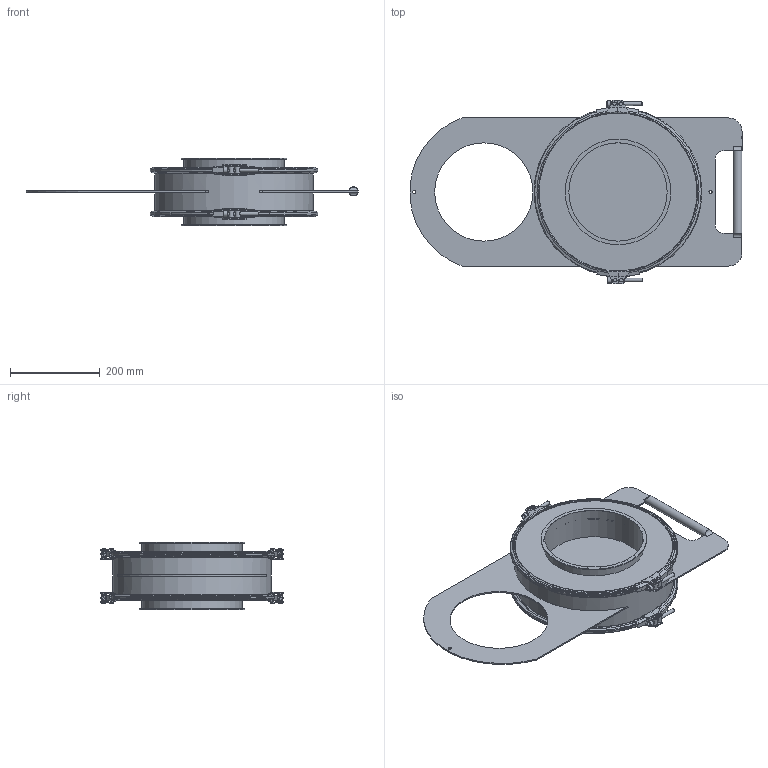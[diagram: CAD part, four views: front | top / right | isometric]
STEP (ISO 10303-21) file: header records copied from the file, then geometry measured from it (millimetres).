
FILE_DESCRIPTION((''),'2;1');
FILE_NAME('U:\Wolfgang\Marcel-3D\fertig\Kapitel 9\2221081.stp','2011-10-11T13:06:31',('iwienholt'),(''),'Autodesk Inventor 2010','Autodesk Inventor 2010','');
FILE_SCHEMA(('AUTOMOTIVE_DESIGN { 1 0 10303 214 1 1 1 1 }'));
Length unit declared in the file: millimetre
Products named in the file (10): 2221081; Rohr DN224; Schieber DN224; 3522055; 3522055-1; Verschluss b=374; Verschlussrolle; VerschlussrolleGewinde; ISO 4762 M8 x 70; 3522055-Dichtmasse
Assembly tree (17 placements, depth 3):
  2221081
    Rohr DN224
    Schieber DN224
    3522055  x2
      3522055-1
      Verschluss b=374
      Verschlussrolle
      VerschlussrolleGewinde
      ISO 4762 M8 x 70
      3522055-Dichtmasse
Bounding box: 739.41 x 408 x 150 mm (x, y, z)
Volume: 1772934.6 mm3; surface area: 1353736.6 mm2
Topology: 28 solids, 28 shells, 870 faces, 2306 edges, 1522 vertices
Faces by surface type: cylinder 269, plane 246, bspline 175, cone 144, torus 36
Full cylindrical faces by diameter (mm): 5 x16, 6 x4, 8 x20, 12 x8, 13 x4, 20 x1, 219 x3, 223 x4, 235 x1, 349 x1, 352 x2, 353 x1, 365 x1, 370 x2
Entity records: 7259 total; most frequent: CARTESIAN_POINT 2389, DIRECTION 978, ORIENTED_EDGE 890, EDGE_CURVE 445, AXIS2_PLACEMENT_3D 392, VERTEX_POINT 317, EDGE_LOOP 274, FACE_OUTER_BOUND 199
